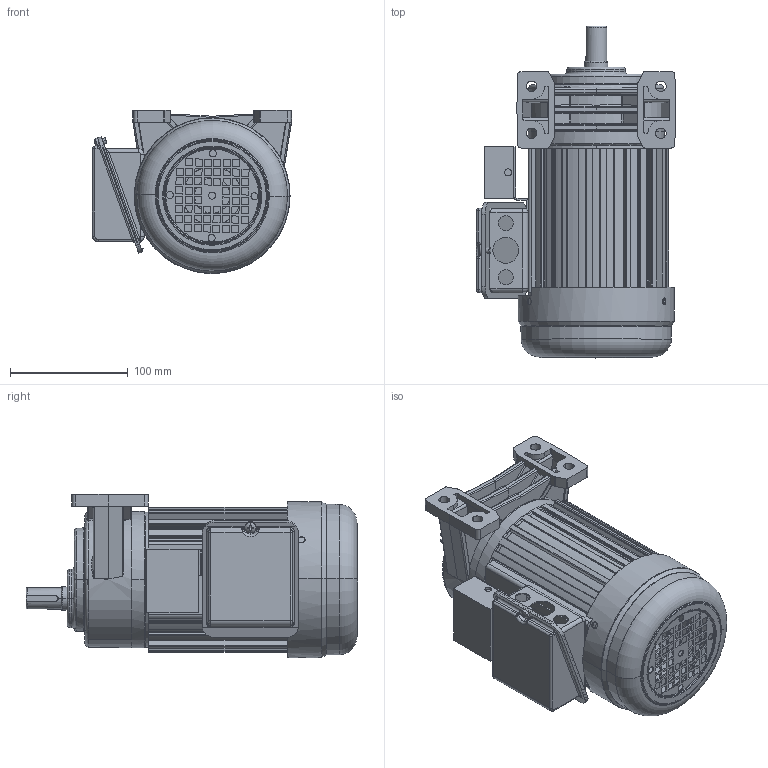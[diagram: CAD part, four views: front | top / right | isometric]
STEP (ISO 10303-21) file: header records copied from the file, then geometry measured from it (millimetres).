
FILE_DESCRIPTION (( 'STEP AP203' ), '1' );
FILE_NAME ('单相200W配1#卧式带刹车.STEP', '2020-04-23T03:02:24', ( 'china' ), ( 'china' ), 'SwSTEP 2.0', 'SolidWorks 2019', '' );
FILE_SCHEMA (( 'CONFIG_CONTROL_DESIGN' ));
Length unit declared in the file: millimetre
Products named in the file (5): 100W价陬瑞欶; 淕霜ん; 单相200W配1#卧式带刹车; 等眈200W1#拏宒; 100W棠憤迖殤
Assembly tree (4 placements, depth 2):
  单相200W配1#卧式带刹车
    等眈200W1#拏宒
    100W棠憤迖殤
    100W价陬瑞欶
    淕霜ん
Bounding box: 169.4 x 282.5 x 138.8 mm (x, y, z)
Volume: 982162.7 mm3; surface area: 416718.8 mm2
Topology: 8 solids, 9 shells, 1391 faces, 3730 edges, 2351 vertices
Faces by surface type: plane 520, cylinder 487, bspline 291, torus 58, cone 29, sphere 6
Entity records: 60309 total; most frequent: CARTESIAN_POINT 26311, ORIENTED_EDGE 7364, DIRECTION 6527, EDGE_CURVE 3682, AXIS2_PLACEMENT_3D 2353, VERTEX_POINT 2351, VECTOR 1821, LINE 1821
